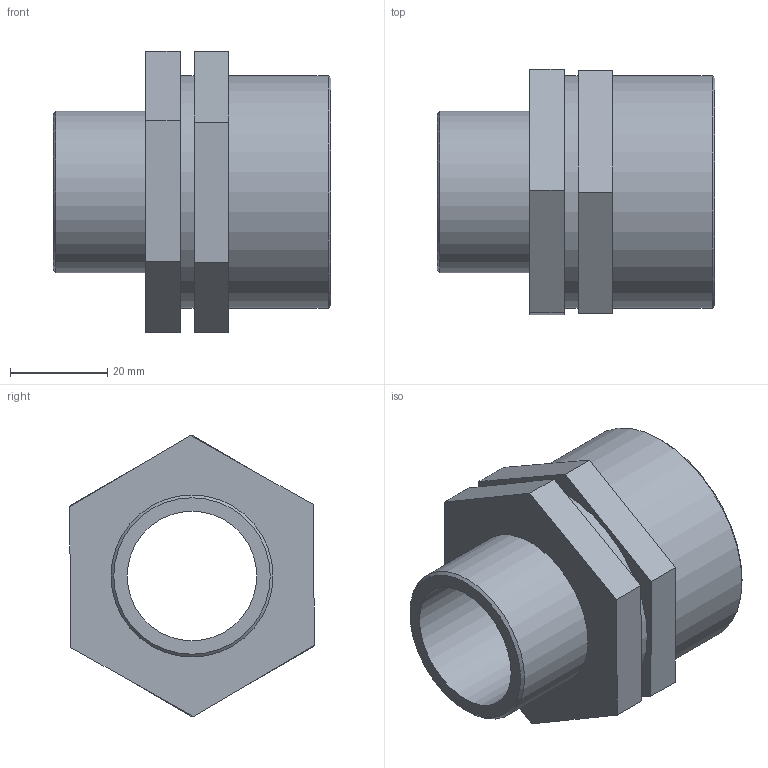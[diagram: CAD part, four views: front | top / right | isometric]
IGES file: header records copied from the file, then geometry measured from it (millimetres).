
Global section: file name: 050605015010_0506050150100A.ipt; native system: Autodesk Inventor 2015; preprocessor: unknown; author: KIM; date: 20170618.093231; units: millimetre
Bounding box: 57 x 50.27 x 57.73 mm (x, y, z)
Volume: 39885.1 mm3; surface area: 17785.1 mm2
Topology: 1 solids, 1 shells, 26 faces, 59 edges, 40 vertices
Faces by surface type: plane 19, cylinder 3, cone 2, revolution 2
Full cylindrical faces by diameter (mm): 33.249 x1, 47.803 x2
